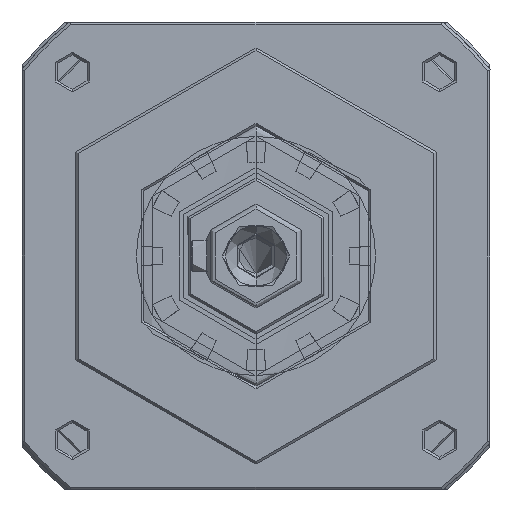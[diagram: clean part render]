
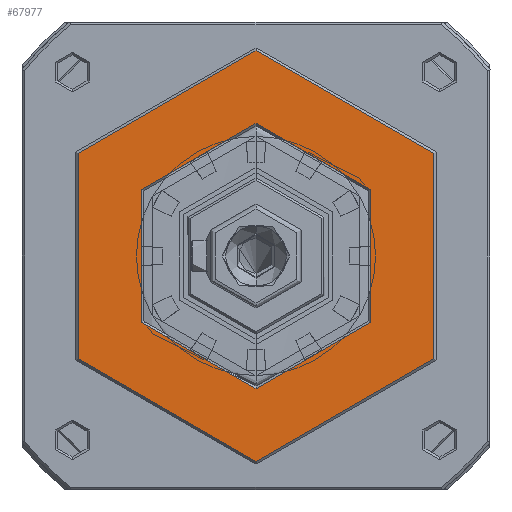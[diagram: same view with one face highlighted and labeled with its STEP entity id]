
A CAD part, left-side view. The second image highlights one B-rep face of the part: STEP entity #67977.
In plain terms, the highlighted planar face has unit normal (-1, 0, 0).
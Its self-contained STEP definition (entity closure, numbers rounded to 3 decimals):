
#2734 = CARTESIAN_POINT ( 'NONE',  ( 0., 0., 0. ) ) ;
#2872 = ORIENTED_EDGE ( 'NONE', *, *, #97688, .F. ) ;
#5693 = DIRECTION ( 'NONE',  ( 0., 0., -1. ) ) ;
#6884 = CIRCLE ( 'NONE', #95343, 39.5 ) ;
#7261 = EDGE_CURVE ( 'NONE', #58962, #16178, #6884, .T. ) ;
#8362 = ORIENTED_EDGE ( 'NONE', *, *, #82900, .F. ) ;
#10773 = DIRECTION ( 'NONE',  ( 0., 0., -1. ) ) ;
#11291 = FACE_BOUND ( 'NONE', #56098, .T. ) ;
#11549 = DIRECTION ( 'NONE',  ( 0., 0., -1. ) ) ;
#13861 = CARTESIAN_POINT ( 'NONE',  ( 0., 0., 25.5 ) ) ;
#16178 = VERTEX_POINT ( 'NONE', #83080 ) ;
#24705 = AXIS2_PLACEMENT_3D ( 'NONE', #34736, #94843, #72760 ) ;
#28526 = EDGE_CURVE ( 'NONE', #16178, #58962, #86188, .T. ) ;
#29376 = AXIS2_PLACEMENT_3D ( 'NONE', #70612, #70947, #10773 ) ;
#30156 = CIRCLE ( 'NONE', #83766, 25.5 ) ;
#34163 = DIRECTION ( 'NONE',  ( -1., 0., 0. ) ) ;
#34736 = CARTESIAN_POINT ( 'NONE',  ( 0., 0., 0. ) ) ;
#38784 = CIRCLE ( 'NONE', #24705, 25.5 ) ;
#42737 = DIRECTION ( 'NONE',  ( 1., 0., 0. ) ) ;
#43235 = FACE_OUTER_BOUND ( 'NONE', #70736, .T. ) ;
#55293 = DIRECTION ( 'NONE',  ( 0., 0., 1. ) ) ;
#56098 = EDGE_LOOP ( 'NONE', ( #2872, #8362 ) ) ;
#56154 = CARTESIAN_POINT ( 'NONE',  ( 0., 0., 0. ) ) ;
#57921 = CARTESIAN_POINT ( 'NONE',  ( 0., -39.974, 39.974 ) ) ;
#58962 = VERTEX_POINT ( 'NONE', #85528 ) ;
#65646 = AXIS2_PLACEMENT_3D ( 'NONE', #57921, #42737, #5693 ) ;
#66962 = VERTEX_POINT ( 'NONE', #13861 ) ;
#67977 = ADVANCED_FACE ( 'NONE', ( #11291, #43235 ), #81083, .F. ) ;
#68626 = ORIENTED_EDGE ( 'NONE', *, *, #28526, .T. ) ;
#70612 = CARTESIAN_POINT ( 'NONE',  ( 0., 0., 0. ) ) ;
#70736 = EDGE_LOOP ( 'NONE', ( #90131, #68626 ) ) ;
#70947 = DIRECTION ( 'NONE',  ( -1., 0., 0. ) ) ;
#72760 = DIRECTION ( 'NONE',  ( 0., 0., 1. ) ) ;
#75713 = CARTESIAN_POINT ( 'NONE',  ( 0., 0., -25.5 ) ) ;
#76719 = VERTEX_POINT ( 'NONE', #75713 ) ;
#81083 = PLANE ( 'NONE',  #65646 ) ;
#82900 = EDGE_CURVE ( 'NONE', #76719, #66962, #38784, .T. ) ;
#83080 = CARTESIAN_POINT ( 'NONE',  ( 0., 0., 39.5 ) ) ;
#83766 = AXIS2_PLACEMENT_3D ( 'NONE', #2734, #34163, #55293 ) ;
#85528 = CARTESIAN_POINT ( 'NONE',  ( 0., 0., -39.5 ) ) ;
#86188 = CIRCLE ( 'NONE', #29376, 39.5 ) ;
#90131 = ORIENTED_EDGE ( 'NONE', *, *, #7261, .T. ) ;
#94787 = DIRECTION ( 'NONE',  ( -1., 0., 0. ) ) ;
#94843 = DIRECTION ( 'NONE',  ( -1., 0., 0. ) ) ;
#95343 = AXIS2_PLACEMENT_3D ( 'NONE', #56154, #94787, #11549 ) ;
#97688 = EDGE_CURVE ( 'NONE', #66962, #76719, #30156, .T. ) ;
